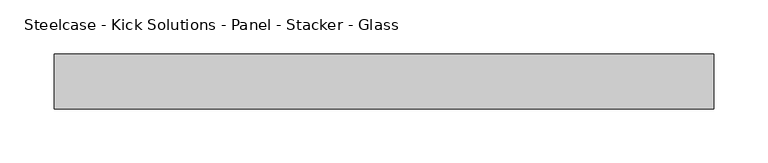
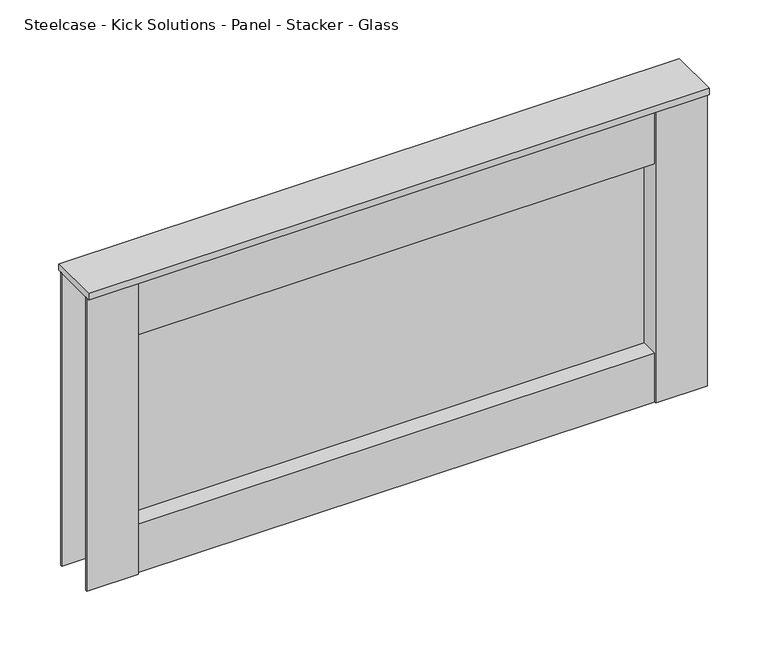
"""IFC4 building model written with IfcOpenShell, lengths in millimetres: furniture geometry, Steelcase - Kick Solutions - Panel - Stacker - Glass : 12H x 24W."""

from ifc_helpers import new_model, si_unit, frame, origin, place, context, project, spatial, polyline, outline, extrude, source, transform, mapped, element, save


def steelcase_kick_solutions_panel_stacker_glass_5087beba(model_context):
    return source(origin(), model_context, "Body", "SweptSolid", [
        extrude(outline(polyline([(558.8006661, -5.08), (558.8006661, -45.7200015), (50.8006646, -45.7200015), (50.8006646, -5.08), (558.8006661, -5.08)])), frame((0.0, 0.0, 1066.8), z_axis=(0.0, 0.0, 1.0), x_axis=(1.0, 0.0, 0.0)), (0.0, 0.0, 1.0), 50.6830951),
        extrude(outline(polyline([(558.8006661, -5.08), (558.8006661, -45.7200015), (50.8006646, -45.7200015), (50.8006646, -5.08), (558.8006661, -5.08)])), frame((0.0, 0.0, 1314.45), z_axis=(0.0, 0.0, 1.0), x_axis=(1.0, 0.0, 0.0)), (0.0, 0.0, 1.0), 57.15),
        extrude(outline(polyline([(50.8006646, -3.1743148), (50.8006646, -47.6243142), (0.0, -47.6243142), (0.0, -45.7200015), (47.7526646, -45.7200015), (47.7526646, -5.08), (0.0, -5.08), (0.0, -3.1743148), (50.8006646, -3.1743148)])), frame((0.0, 0.0, 1066.8), z_axis=(0.0, 0.0, 1.0), x_axis=(1.0, 0.0, 0.0)), (0.0, 0.0, 1.0), 304.8),
        extrude(outline(polyline([(558.8006661, -3.1743148), (609.6, -3.1743148), (609.6, -5.08), (561.8486661, -5.08), (561.8486661, -45.7200015), (609.6, -45.7200015), (609.6, -47.6243142), (558.8006661, -47.6243142), (558.8006661, -3.1743148)])), frame((0.0, 0.0, 1066.8), z_axis=(0.0, 0.0, 1.0), x_axis=(1.0, 0.0, 0.0)), (0.0, 0.0, 1.0), 304.8),
        extrude(outline(polyline([(558.8006661, -28.422537), (50.8006646, -28.422537), (50.8006646, -25.4), (558.8006661, -25.4), (558.8006661, -28.422537)])), frame((0.0, 0.0, 1117.4830951), z_axis=(0.0, 0.0, 1.0), x_axis=(1.0, 0.0, 0.0)), (0.0, 0.0, 1.0), 196.9669049),
        extrude(outline(polyline([(609.6, 0.0), (609.6, -50.8000015), (0.0, -50.8000015), (0.0, 0.0), (609.6, 0.0)])), frame((0.0, 0.0, 1371.6), z_axis=(0.0, 0.0, 1.0), x_axis=(1.0, 0.0, 0.0)), (0.0, 0.0, 1.0), 6.35),
    ])


if __name__ == "__main__":
    model = new_model("IFC4")
    model_context = context("Model", 3, world=origin())
    ifc_project = project(units=[si_unit("LENGTHUNIT", "METRE", prefix="MILLI")], contexts=[model_context])
    site = spatial("IfcSite", under=ifc_project)
    building = spatial("IfcBuilding", under=site)
    placement = place(None, origin())
    steelcase_kick_solutions_panel_stacker_glass_shape = steelcase_kick_solutions_panel_stacker_glass_5087beba(model_context)
    element("IfcFurniture", 1, ObjectType="Steelcase - Kick Solutions - Panel - Stacker - Glass : 12H x 24W", at=placement, inside=building, context=model_context, shape_type="MappedRepresentation", body=[
        mapped(steelcase_kick_solutions_panel_stacker_glass_shape, transform((0.0, 0.0, 0.0), x_axis=(1.0, 0.0, 0.0), y_axis=(0.0, 1.0, 0.0), z_axis=(0.0, 0.0, 1.0))),
    ])
    save(model, "model.ifc")
